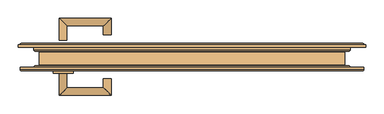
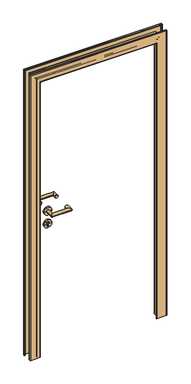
"""IFC4 building model written with IfcOpenShell, lengths in millimetres: door geometry, Peneder_HIGHLINEflat zero_1-flügelig_V2019 : Zargentyp - 07 - Stumpf FP V."""

from ifc_helpers import new_model, si_unit, frame, origin, place, context, project, spatial, polyline, circle_curve, ellipse_curve, source, transform, mapped, element, save
from ifc_brep_helpers import plane_surface, cylinder_surface, revolved_surface, advanced_brep


def door_acefcb3a(model_context):
    return source(origin(), model_context, "Body", "AdvancedBrep", [
        advanced_brep(
        [(-434.2, 75.0, 0.0), (-431.0, 71.8, 0.0), (-431.0, 57.2, 0.0), (-429.8, 56.0, 0.0), (-418.2, 56.0, 0.0), (-415.0, 52.8, 0.0), (-415.0, 12.1, 0.0), (-417.0, 12.1, 0.0), (-417.0, 52.8, 0.0), (-418.2, 54.0, 0.0), (-429.8, 54.0, 0.0), (-433.0, 57.2, 0.0), (-433.0, 71.8, 0.0), (-434.2, 73.0, 0.0), (-467.8, 73.0, 0.0), (-469.0, 71.8, 0.0), (-469.0, 65.0, 0.0), (-471.0, 65.0, 0.0), (-471.0, 71.8, 0.0), (-467.8, 75.0, 0.0), (-434.2, 75.0, 2034.2), (-431.0, 71.8, 2031.0), (-431.0, 57.2, 2031.0), (-429.8, 56.0, 2029.8), (429.8, 56.0, 2029.8), (429.8, 56.0, 0.0), (418.2, 56.0, 0.0), (418.2, 56.0, 2018.2), (-418.2, 56.0, 2018.2), (-415.0, 52.8, 2015.0), (-415.0, 12.1, 2015.0), (415.0, 12.1, 2015.0), (415.0, 12.1, 0.0), (417.0, 12.1, 0.0), (417.0, 12.1, 2017.0), (-417.0, 12.1, 2017.0), (-417.0, 52.8, 2017.0), (-418.2, 54.0, 2018.2), (418.2, 54.0, 2018.2), (418.2, 54.0, 0.0), (429.8, 54.0, 0.0), (429.8, 54.0, 2029.8), (-429.8, 54.0, 2029.8), (-433.0, 57.2, 2033.0), (-433.0, 71.8, 2033.0), (-434.2, 73.0, 2034.2), (434.2, 73.0, 2034.2), (434.2, 73.0, 0.0), (467.8, 73.0, 0.0), (467.8, 73.0, 2067.8), (-467.8, 73.0, 2067.8), (-469.0, 71.8, 2069.0), (-469.0, 65.0, 2069.0), (469.0, 65.0, 2069.0), (469.0, 65.0, 0.0), (471.0, 65.0, 0.0), (471.0, 65.0, 2071.0), (-471.0, 65.0, 2071.0), (-471.0, 71.8, 2071.0), (-467.8, 75.0, 2067.8), (467.8, 75.0, 2067.8), (467.8, 75.0, 0.0), (434.2, 75.0, 0.0), (434.2, 75.0, 2034.2), (415.0, 52.8, 2015.0), (415.0, 52.8, 0.0), (471.0, 71.8, 0.0), (469.0, 71.8, 0.0), (433.0, 71.8, 0.0), (433.0, 57.2, 0.0), (417.0, 52.8, 0.0), (431.0, 57.2, 0.0), (431.0, 71.8, 0.0), (417.0, 52.8, 2017.0), (433.0, 57.2, 2033.0), (469.0, 71.8, 2069.0), (471.0, 71.8, 2071.0), (433.0, 71.8, 2033.0), (431.0, 57.2, 2031.0), (431.0, 71.8, 2031.0)],
        [
            (0, 1, circle_curve(frame((-434.2, 71.8, 0.0), z_axis=(0.0, 0.0, -1.0), x_axis=(-1.0, 0.0, 0.0)), 3.2)),
            (1, 2),
            (2, 3, circle_curve(frame((-429.8, 57.2, 0.0), z_axis=(0.0, 0.0, 1.0), x_axis=(-1.0, 0.0, 0.0)), 1.2)),
            (3, 4),
            (4, 5, circle_curve(frame((-418.2, 52.8, 0.0), z_axis=(0.0, 0.0, -1.0), x_axis=(-1.0, 0.0, 0.0)), 3.2)),
            (5, 6),
            (6, 7),
            (7, 8),
            (8, 9, circle_curve(frame((-418.2, 52.8, 0.0), z_axis=(0.0, 0.0, 1.0), x_axis=(-1.0, 0.0, 0.0)), 1.2)),
            (9, 10),
            (10, 11, circle_curve(frame((-429.8, 57.2, 0.0), z_axis=(0.0, 0.0, -1.0), x_axis=(-1.0, 0.0, 0.0)), 3.2)),
            (11, 12),
            (12, 13, circle_curve(frame((-434.2, 71.8, 0.0), z_axis=(0.0, 0.0, 1.0), x_axis=(-1.0, 0.0, 0.0)), 1.2)),
            (13, 14),
            (14, 15, circle_curve(frame((-467.8, 71.8, 0.0), z_axis=(0.0, 0.0, 1.0), x_axis=(-1.0, 0.0, 0.0)), 1.2)),
            (15, 16),
            (16, 17),
            (17, 18),
            (18, 19, circle_curve(frame((-467.8, 71.8, 0.0), z_axis=(0.0, 0.0, -1.0), x_axis=(-1.0, 0.0, 0.0)), 3.2)),
            (19, 0),
            (0, 20),
            (20, 21, ellipse_curve(frame((-434.2, 71.8, 2034.2), z_axis=(-0.7071067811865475, 0.0, -0.7071067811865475), x_axis=(0.7071067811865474, 0.0, -0.7071067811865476)), 4.5254834, 3.2)),
            (21, 1),
            (21, 22),
            (22, 2),
            (22, 23, ellipse_curve(frame((-429.8, 57.2, 2029.8), z_axis=(0.7071067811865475, 0.0, 0.7071067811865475), x_axis=(-0.7071067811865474, 0.0, 0.7071067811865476)), 1.6970563, 1.2)),
            (23, 3),
            (23, 24),
            (24, 25),
            (25, 26),
            (26, 27),
            (27, 28),
            (28, 4),
            (28, 29, ellipse_curve(frame((-418.2, 52.8, 2018.2), z_axis=(-0.7071067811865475, 0.0, -0.7071067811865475), x_axis=(0.7071067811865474, 0.0, -0.7071067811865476)), 4.5254834, 3.2)),
            (29, 5),
            (29, 30),
            (30, 6),
            (30, 31),
            (31, 32),
            (32, 33),
            (33, 34),
            (34, 35),
            (35, 7),
            (35, 36),
            (36, 8),
            (36, 37, ellipse_curve(frame((-418.2, 52.8, 2018.2), z_axis=(0.7071067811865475, 0.0, 0.7071067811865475), x_axis=(-0.7071067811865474, 0.0, 0.7071067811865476)), 1.6970563, 1.2)),
            (37, 9),
            (37, 38),
            (38, 39),
            (39, 40),
            (40, 41),
            (41, 42),
            (42, 10),
            (42, 43, ellipse_curve(frame((-429.8, 57.2, 2029.8), z_axis=(-0.7071067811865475, 0.0, -0.7071067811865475), x_axis=(0.7071067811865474, 0.0, -0.7071067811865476)), 4.5254834, 3.2)),
            (43, 11),
            (43, 44),
            (44, 12),
            (44, 45, ellipse_curve(frame((-434.2, 71.8, 2034.2), z_axis=(0.7071067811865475, 0.0, 0.7071067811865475), x_axis=(-0.7071067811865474, 0.0, 0.7071067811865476)), 1.6970563, 1.2)),
            (45, 13),
            (45, 46),
            (46, 47),
            (47, 48),
            (48, 49),
            (49, 50),
            (50, 14),
            (50, 51, ellipse_curve(frame((-467.8, 71.8, 2067.8), z_axis=(0.7071067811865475, 0.0, 0.7071067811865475), x_axis=(-0.7071067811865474, 0.0, 0.7071067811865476)), 1.6970563, 1.2)),
            (51, 15),
            (51, 52),
            (52, 16),
            (52, 53),
            (53, 54),
            (54, 55),
            (55, 56),
            (56, 57),
            (57, 17),
            (57, 58),
            (58, 18),
            (58, 59, ellipse_curve(frame((-467.8, 71.8, 2067.8), z_axis=(-0.7071067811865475, 0.0, -0.7071067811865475), x_axis=(0.7071067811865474, 0.0, -0.7071067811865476)), 4.5254834, 3.2)),
            (59, 19),
            (59, 60),
            (60, 61),
            (61, 62),
            (62, 63),
            (63, 20),
            (31, 64),
            (64, 65),
            (65, 32),
            (61, 66, circle_curve(frame((467.8, 71.8, 0.0), z_axis=(0.0, 0.0, -1.0), x_axis=(1.0, 0.0, 0.0)), 3.2)),
            (66, 55),
            (54, 67),
            (67, 48, circle_curve(frame((467.8, 71.8, 0.0), z_axis=(0.0, 0.0, 1.0), x_axis=(1.0, 0.0, 0.0)), 1.2)),
            (47, 68, circle_curve(frame((434.2, 71.8, 0.0), z_axis=(0.0, 0.0, 1.0), x_axis=(1.0, 0.0, 0.0)), 1.2)),
            (68, 69),
            (69, 40, circle_curve(frame((429.8, 57.2, 0.0), z_axis=(0.0, 0.0, -1.0), x_axis=(1.0, 0.0, 0.0)), 3.2)),
            (39, 70, circle_curve(frame((418.2, 52.8, 0.0), z_axis=(0.0, 0.0, 1.0), x_axis=(1.0, 0.0, 0.0)), 1.2)),
            (70, 33),
            (65, 26, circle_curve(frame((418.2, 52.8, 0.0), z_axis=(0.0, 0.0, -1.0), x_axis=(1.0, 0.0, 0.0)), 3.2)),
            (25, 71, circle_curve(frame((429.8, 57.2, 0.0), z_axis=(0.0, 0.0, 1.0), x_axis=(1.0, 0.0, 0.0)), 1.2)),
            (71, 72),
            (72, 62, circle_curve(frame((434.2, 71.8, 0.0), z_axis=(0.0, 0.0, -1.0), x_axis=(1.0, 0.0, 0.0)), 3.2)),
            (73, 34),
            (70, 73),
            (38, 73, ellipse_curve(frame((418.2, 52.8, 2018.2), z_axis=(-0.7071067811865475, 0.0, 0.7071067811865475), x_axis=(-0.7071067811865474, 0.0, -0.7071067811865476)), 1.6970563, 1.2)),
            (74, 41, ellipse_curve(frame((429.8, 57.2, 2029.8), z_axis=(0.7071067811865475, 0.0, -0.7071067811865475), x_axis=(0.7071067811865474, 0.0, 0.7071067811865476)), 4.5254834, 3.2)),
            (69, 74),
            (53, 75),
            (75, 67),
            (76, 56),
            (66, 76),
            (46, 77, ellipse_curve(frame((434.2, 71.8, 2034.2), z_axis=(-0.7071067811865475, 0.0, 0.7071067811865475), x_axis=(-0.7071067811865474, 0.0, -0.7071067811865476)), 1.6970563, 1.2)),
            (77, 68),
            (75, 49, ellipse_curve(frame((467.8, 71.8, 2067.8), z_axis=(-0.7071067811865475, 0.0, 0.7071067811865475), x_axis=(-0.7071067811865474, 0.0, -0.7071067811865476)), 1.6970563, 1.2)),
            (24, 78, ellipse_curve(frame((429.8, 57.2, 2029.8), z_axis=(-0.7071067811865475, 0.0, 0.7071067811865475), x_axis=(-0.7071067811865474, 0.0, -0.7071067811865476)), 1.6970563, 1.2)),
            (78, 71),
            (64, 27, ellipse_curve(frame((418.2, 52.8, 2018.2), z_axis=(0.7071067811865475, 0.0, -0.7071067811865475), x_axis=(0.7071067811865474, 0.0, 0.7071067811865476)), 4.5254834, 3.2)),
            (60, 76, ellipse_curve(frame((467.8, 71.8, 2067.8), z_axis=(0.7071067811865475, 0.0, -0.7071067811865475), x_axis=(0.7071067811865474, 0.0, 0.7071067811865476)), 4.5254834, 3.2)),
            (79, 63, ellipse_curve(frame((434.2, 71.8, 2034.2), z_axis=(0.7071067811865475, 0.0, -0.7071067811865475), x_axis=(0.7071067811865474, 0.0, 0.7071067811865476)), 4.5254834, 3.2)),
            (72, 79),
            (77, 74),
            (78, 79),
            (73, 36),
            (44, 77),
            (64, 29),
            (51, 75),
            (76, 58),
            (22, 78),
            (21, 79),
            (43, 74),
        ],
        [
            plane_surface(frame((-476.0, 75.0, 0.0), z_axis=(0.0, 0.0, -1.0), x_axis=(0.0, 1.0, 0.0))),
            cylinder_surface(frame((-434.2, 71.8, 0.0), z_axis=(0.0, 0.0, -1.0), x_axis=(-1.0, 0.0, 0.0)), 3.2),
            plane_surface(frame((-431.0, 71.8, 0.0), z_axis=(1.0, 0.0, 0.0), x_axis=(0.0, 0.0, 1.0))),
            revolved_surface(polyline([(-431.0, 57.2, 2031.0000000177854), (-431.0, 57.2, 0.0)]), (-429.8, 57.2, 0.0), (0.0, 0.0, 1.0)),
            plane_surface(frame((-429.8, 56.0, 0.0), z_axis=(0.0, 1.0, 0.0), x_axis=(0.0, 0.0, 1.0))),
            cylinder_surface(frame((-418.2, 52.8, 0.0), z_axis=(0.0, 0.0, -1.0), x_axis=(-1.0, 0.0, 0.0)), 3.2),
            plane_surface(frame((-415.0, 52.8, 0.0), z_axis=(1.0, 0.0, 0.0), x_axis=(0.0, 0.0, 1.0))),
            plane_surface(frame((-415.0, 12.1, 0.0), z_axis=(0.0, -1.0, 0.0), x_axis=(0.0, 0.0, 1.0))),
            plane_surface(frame((-417.0, 12.1, 0.0), z_axis=(-1.0, 0.0, 0.0), x_axis=(0.0, 0.0, 1.0))),
            revolved_surface(polyline([(-419.4, 52.8, 2019.4000000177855), (-419.4, 52.8, 0.0)]), (-418.2, 52.8, 0.0), (0.0, 0.0, 1.0)),
            plane_surface(frame((-418.2, 54.0, 0.0), z_axis=(0.0, -1.0, 0.0), x_axis=(0.0, 0.0, 1.0))),
            cylinder_surface(frame((-429.8, 57.2, 0.0), z_axis=(0.0, 0.0, -1.0), x_axis=(-1.0, 0.0, 0.0)), 3.2),
            plane_surface(frame((-433.0, 57.2, 0.0), z_axis=(-1.0, 0.0, 0.0), x_axis=(0.0, 0.0, 1.0))),
            revolved_surface(polyline([(-435.4, 71.8, 2035.4000000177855), (-435.4, 71.8, 0.0)]), (-434.2, 71.8, 0.0), (0.0, 0.0, 1.0)),
            plane_surface(frame((-434.2, 73.0, 0.0), z_axis=(0.0, -1.0, 0.0), x_axis=(0.0, 0.0, 1.0))),
            revolved_surface(polyline([(-469.0, 71.8, 2069.0000000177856), (-469.0, 71.8, 0.0)]), (-467.8, 71.8, 0.0), (0.0, 0.0, 1.0)),
            plane_surface(frame((-469.0, 71.8, 0.0), z_axis=(1.0, 0.0, 0.0), x_axis=(0.0, 0.0, 1.0))),
            plane_surface(frame((-469.0, 65.0, 0.0), z_axis=(0.0, -1.0, 0.0), x_axis=(0.0, 0.0, 1.0))),
            plane_surface(frame((-471.0, 65.0, 0.0), z_axis=(-1.0, 0.0, 0.0), x_axis=(0.0, 0.0, 1.0))),
            cylinder_surface(frame((-467.8, 71.8, 0.0), z_axis=(0.0, 0.0, -1.0), x_axis=(-1.0, 0.0, 0.0)), 3.2),
            plane_surface(frame((-467.8, 75.0, 0.0), z_axis=(0.0, 1.0, 0.0), x_axis=(0.0, 0.0, 1.0))),
            plane_surface(frame((415.0, 52.8, 2015.0), z_axis=(-1.0, 0.0, 0.0), x_axis=(0.0, 0.0, -1.0))),
            plane_surface(frame((476.0, 75.0, 0.0), z_axis=(0.0, 0.0, -1.0), x_axis=(0.0, 1.0, 0.0))),
            plane_surface(frame((417.0, 12.1, 2017.0), z_axis=(1.0, 0.0, 0.0), x_axis=(0.0, 0.0, -1.0))),
            revolved_surface(polyline([(419.4, 52.8, 0.0), (419.4, 52.8, 2019.4000000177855)]), (418.2, 52.8, 2076.0), (0.0, 0.0, -1.0)),
            cylinder_surface(frame((429.8, 57.2, 2076.0), z_axis=(0.0, 0.0, 1.0), x_axis=(1.0, 0.0, 0.0)), 3.2),
            plane_surface(frame((469.0, 71.8, 2069.0), z_axis=(-1.0, 0.0, 0.0), x_axis=(0.0, 0.0, -1.0))),
            plane_surface(frame((471.0, 65.0, 2071.0), z_axis=(1.0, 0.0, 0.0), x_axis=(0.0, 0.0, -1.0))),
            revolved_surface(polyline([(435.4, 71.8, 0.0), (435.4, 71.8, 2035.4000000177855)]), (434.2, 71.8, 2076.0), (0.0, 0.0, -1.0)),
            revolved_surface(polyline([(469.0, 71.8, 0.0), (469.0, 71.8, 2069.0000000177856)]), (467.8, 71.8, 2076.0), (0.0, 0.0, -1.0)),
            revolved_surface(polyline([(431.0, 57.2, 0.0), (431.0, 57.2, 2031.0000000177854)]), (429.8, 57.2, 2076.0), (0.0, 0.0, -1.0)),
            cylinder_surface(frame((418.2, 52.8, 2076.0), z_axis=(0.0, 0.0, 1.0), x_axis=(1.0, 0.0, 0.0)), 3.2),
            cylinder_surface(frame((467.8, 71.8, 2076.0), z_axis=(0.0, 0.0, 1.0), x_axis=(1.0, 0.0, 0.0)), 3.2),
            cylinder_surface(frame((434.2, 71.8, 2076.0), z_axis=(0.0, 0.0, 1.0), x_axis=(1.0, 0.0, 0.0)), 3.2),
            plane_surface(frame((433.0, 57.2, 2033.0), z_axis=(1.0, 0.0, 0.0), x_axis=(0.0, 0.0, -1.0))),
            plane_surface(frame((431.0, 71.8, 2031.0), z_axis=(-1.0, 0.0, 0.0), x_axis=(0.0, 0.0, -1.0))),
            plane_surface(frame((-417.0, 12.1, 2017.0), z_axis=(0.0, 0.0, 1.0), x_axis=(1.0, 0.0, 0.0))),
            revolved_surface(polyline([(419.4000000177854, 52.8, 2019.4), (-419.4000000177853, 52.8, 2019.4)]), (-476.0, 52.8, 2018.2), (1.0, 0.0, 0.0)),
            revolved_surface(polyline([(435.4000000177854, 71.8, 2035.4), (-435.4000000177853, 71.8, 2035.4)]), (-476.0, 71.8, 2034.2), (1.0, 0.0, 0.0)),
            cylinder_surface(frame((-476.0, 52.8, 2018.2), z_axis=(-1.0, 0.0, 0.0), x_axis=(0.0, 0.0, 1.0)), 3.2),
            plane_surface(frame((-469.0, 71.8, 2069.0), z_axis=(0.0, 0.0, -1.0), x_axis=(1.0, 0.0, 0.0))),
            revolved_surface(polyline([(469.0000000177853, 71.8, 2069.0), (-469.00000001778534, 71.8, 2069.0)]), (-476.0, 71.8, 2067.8), (1.0, 0.0, 0.0)),
            plane_surface(frame((-471.0, 65.0, 2071.0), z_axis=(0.0, 0.0, 1.0), x_axis=(1.0, 0.0, 0.0))),
            cylinder_surface(frame((-476.0, 71.8, 2067.8), z_axis=(-1.0, 0.0, 0.0), x_axis=(0.0, 0.0, 1.0)), 3.2),
            revolved_surface(polyline([(431.0000000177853, 57.2, 2031.0), (-431.00000001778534, 57.2, 2031.0)]), (-476.0, 57.2, 2029.8), (1.0, 0.0, 0.0)),
            plane_surface(frame((-431.0, 71.8, 2031.0), z_axis=(0.0, 0.0, -1.0), x_axis=(1.0, 0.0, 0.0))),
            cylinder_surface(frame((-476.0, 71.8, 2034.2), z_axis=(-1.0, 0.0, 0.0), x_axis=(0.0, 0.0, 1.0)), 3.2),
            plane_surface(frame((-415.0, 52.8, 2015.0), z_axis=(0.0, 0.0, -1.0), x_axis=(1.0, 0.0, 0.0))),
            plane_surface(frame((-433.0, 57.2, 2033.0), z_axis=(0.0, 0.0, 1.0), x_axis=(1.0, 0.0, 0.0))),
            cylinder_surface(frame((-476.0, 57.2, 2029.8), z_axis=(-1.0, 0.0, 0.0), x_axis=(0.0, 0.0, 1.0)), 3.2),
        ],
        [
            (0, [[1, 2, 3, 4, 5, 6, 7, 8, 9, 10, 11, 12, 13, 14, 15, 16, 17, 18, 19, 20]]),
            (1, [[-1, 21, 22, 23]]),
            (2, [[-2, -23, 24, 25]]),
            (3, [[-3, -25, 26, 27]]),
            (4, [[-4, -27, 28, 29, 30, 31, 32, 33]]),
            (5, [[-5, -33, 34, 35]]),
            (6, [[-6, -35, 36, 37]]),
            (7, [[-7, -37, 38, 39, 40, 41, 42, 43]]),
            (8, [[-8, -43, 44, 45]]),
            (9, [[-9, -45, 46, 47]]),
            (10, [[-10, -47, 48, 49, 50, 51, 52, 53]]),
            (11, [[-11, -53, 54, 55]]),
            (12, [[-12, -55, 56, 57]]),
            (13, [[-13, -57, 58, 59]]),
            (14, [[-14, -59, 60, 61, 62, 63, 64, 65]]),
            (15, [[-15, -65, 66, 67]]),
            (16, [[-16, -67, 68, 69]]),
            (17, [[-17, -69, 70, 71, 72, 73, 74, 75]]),
            (18, [[-18, -75, 76, 77]]),
            (19, [[-19, -77, 78, 79]]),
            (20, [[-20, -79, 80, 81, 82, 83, 84, -21]]),
            (21, [[85, 86, 87, -39]]),
            (22, [[-82, 88, 89, -72, 90, 91, -62, 92, 93, 94, -50, 95, 96, -40, -87, 97, -30, 98, 99, 100]]),
            (23, [[101, -41, -96, 102]]),
            (24, [[103, -102, -95, -49]]),
            (25, [[104, -51, -94, 105]]),
            (26, [[106, 107, -90, -71]]),
            (27, [[108, -73, -89, 109]]),
            (28, [[110, 111, -92, -61]]),
            (29, [[112, -63, -91, -107]]),
            (30, [[113, 114, -98, -29]]),
            (31, [[115, -31, -97, -86]]),
            (32, [[116, -109, -88, -81]]),
            (33, [[117, -83, -100, 118]]),
            (34, [[119, -105, -93, -111]]),
            (35, [[120, -118, -99, -114]]),
            (36, [[-44, -42, -101, 121]]),
            (37, [[-46, -121, -103, -48]]),
            (38, [[-58, 122, -110, -60]]),
            (39, [[-34, -32, -115, 123]]),
            (40, [[-68, 124, -106, -70]]),
            (41, [[-66, -64, -112, -124]]),
            (42, [[-76, -74, -108, 125]]),
            (43, [[-78, -125, -116, -80]]),
            (44, [[-26, 126, -113, -28]]),
            (45, [[-24, 127, -120, -126]]),
            (46, [[-22, -84, -117, -127]]),
            (47, [[-36, -123, -85, -38]]),
            (48, [[-56, 128, -119, -122]]),
            (49, [[-54, -52, -104, -128]]),
        ],
    ),
        advanced_brep(
        [(-402.05, 0.1254834, 0.0), (-467.8, 0.1254834, 0.0), (-471.0, 3.3254834, 0.0), (-471.0, 10.1254834, 0.0), (-469.0, 10.1254834, 0.0), (-469.0, 3.3254834, 0.0), (-467.8, 2.1254834, 0.0), (-402.05, 2.1254834, 0.0), (-429.1, 2.2254834, 0.0), (-432.3, 5.4254834, 0.0), (-432.3, 11.0254834, 0.0), (-429.1, 14.2254834, 0.0), (-420.25, 14.2254834, 0.0), (-419.05, 15.4254834, 0.0), (-419.05, 51.2254834, 0.0), (-417.05, 51.2254834, 0.0), (-417.05, 15.4254834, 0.0), (-420.25, 12.2254834, 0.0), (-429.1, 12.2254834, 0.0), (-430.3, 11.0254834, 0.0), (-430.3, 5.4254834, 0.0), (-429.1, 4.2254834, 0.0), (-402.05, 4.2254834, 0.0), (-402.05, 0.1254834, 2002.05), (402.05, 0.1254834, 2002.05), (402.05, 0.1254834, 0.0), (467.8, 0.1254834, 0.0), (467.8, 0.1254834, 2067.8), (-467.8, 0.1254834, 2067.8), (-471.0, 3.3254834, 2071.0), (-471.0, 10.1254834, 2071.0), (471.0, 10.1254834, 2071.0), (471.0, 10.1254834, 0.0), (469.0, 10.1254834, 0.0), (469.0, 10.1254834, 2069.0), (-469.0, 10.1254834, 2069.0), (-469.0, 3.3254834, 2069.0), (-467.8, 2.1254834, 2067.8), (467.8, 2.1254834, 2067.8), (467.8, 2.1254834, 0.0), (402.05, 2.1254834, 0.0), (402.05, 2.1254834, 2002.05), (-402.05, 2.1254834, 2002.05), (-429.1, 2.2254834, 2029.1), (-432.3, 5.4254834, 2032.3), (-432.3, 11.0254834, 2032.3), (-429.1, 14.2254834, 2029.1), (429.1, 14.2254834, 2029.1), (429.1, 14.2254834, 0.0), (420.25, 14.2254834, 0.0), (420.25, 14.2254834, 2020.25), (-420.25, 14.2254834, 2020.25), (-419.05, 15.4254834, 2019.05), (-419.05, 51.2254834, 2019.05), (419.05, 51.2254834, 2019.05), (419.05, 51.2254834, 0.0), (417.05, 51.2254834, 0.0), (417.05, 51.2254834, 2017.05), (-417.05, 51.2254834, 2017.05), (-417.05, 15.4254834, 2017.05), (-420.25, 12.2254834, 2020.25), (420.25, 12.2254834, 2020.25), (420.25, 12.2254834, 0.0), (429.1, 12.2254834, 0.0), (429.1, 12.2254834, 2029.1), (-429.1, 12.2254834, 2029.1), (-430.3, 11.0254834, 2030.3), (-430.3, 5.4254834, 2030.3), (-429.1, 4.2254834, 2029.1), (429.1, 4.2254834, 2029.1), (429.1, 4.2254834, 0.0), (402.05, 4.2254834, 0.0), (402.05, 4.2254834, 2002.05), (-402.05, 4.2254834, 2002.05), (471.0, 3.3254834, 2071.0), (471.0, 3.3254834, 0.0), (430.3, 5.4254834, 0.0), (430.3, 11.0254834, 0.0), (417.05, 15.4254834, 0.0), (419.05, 15.4254834, 0.0), (432.3, 11.0254834, 0.0), (432.3, 5.4254834, 0.0), (429.1, 2.2254834, 0.0), (469.0, 3.3254834, 0.0), (469.0, 3.3254834, 2069.0), (429.1, 2.2254834, 2029.1), (430.3, 5.4254834, 2030.3), (417.05, 15.4254834, 2017.05), (430.3, 11.0254834, 2030.3), (432.3, 11.0254834, 2032.3), (419.05, 15.4254834, 2019.05), (432.3, 5.4254834, 2032.3)],
        [
            (0, 1),
            (1, 2, circle_curve(frame((-467.8, 3.3254834, 0.0), z_axis=(0.0, 0.0, -1.0), x_axis=(-1.0, 0.0, 0.0)), 3.2)),
            (2, 3),
            (3, 4),
            (4, 5),
            (5, 6, circle_curve(frame((-467.8, 3.3254834, 0.0), z_axis=(0.0, 0.0, 1.0), x_axis=(-1.0, 0.0, 0.0)), 1.2)),
            (6, 7),
            (7, 8),
            (8, 9, circle_curve(frame((-429.1, 5.4254834, 0.0), z_axis=(0.0, 0.0, -1.0), x_axis=(-1.0, 0.0, 0.0)), 3.2)),
            (9, 10),
            (10, 11, circle_curve(frame((-429.1, 11.0254834, 0.0), z_axis=(0.0, 0.0, -1.0), x_axis=(-1.0, 0.0, 0.0)), 3.2)),
            (11, 12),
            (12, 13, circle_curve(frame((-420.25, 15.4254834, 0.0), z_axis=(0.0, 0.0, 1.0), x_axis=(-1.0, 0.0, 0.0)), 1.2)),
            (13, 14),
            (14, 15),
            (15, 16),
            (16, 17, circle_curve(frame((-420.25, 15.4254834, 0.0), z_axis=(0.0, 0.0, -1.0), x_axis=(-1.0, 0.0, 0.0)), 3.2)),
            (17, 18),
            (18, 19, circle_curve(frame((-429.1, 11.0254834, 0.0), z_axis=(0.0, 0.0, 1.0), x_axis=(-1.0, 0.0, 0.0)), 1.2)),
            (19, 20),
            (20, 21, circle_curve(frame((-429.1, 5.4254834, 0.0), z_axis=(0.0, 0.0, 1.0), x_axis=(-1.0, 0.0, 0.0)), 1.2)),
            (21, 22),
            (22, 0, circle_curve(frame((-402.05, 2.1754834, 0.0), z_axis=(0.0, 0.0, -1.0), x_axis=(-1.0, 0.0, 0.0)), 2.05)),
            (0, 23),
            (23, 24),
            (24, 25),
            (25, 26),
            (26, 27),
            (27, 28),
            (28, 1),
            (28, 29, ellipse_curve(frame((-467.8, 3.3254834, 2067.8), z_axis=(-0.7071067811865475, 0.0, -0.7071067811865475), x_axis=(0.7071067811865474, 0.0, -0.7071067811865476)), 4.5254834, 3.2)),
            (29, 2),
            (29, 30),
            (30, 3),
            (30, 31),
            (31, 32),
            (32, 33),
            (33, 34),
            (34, 35),
            (35, 4),
            (35, 36),
            (36, 5),
            (36, 37, ellipse_curve(frame((-467.8, 3.3254834, 2067.8), z_axis=(0.7071067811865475, 0.0, 0.7071067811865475), x_axis=(-0.7071067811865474, 0.0, 0.7071067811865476)), 1.6970563, 1.2)),
            (37, 6),
            (37, 38),
            (38, 39),
            (39, 40),
            (40, 41),
            (41, 42),
            (42, 7),
            (42, 43),
            (43, 8),
            (43, 44, ellipse_curve(frame((-429.1, 5.4254834, 2029.1), z_axis=(-0.7071067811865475, 0.0, -0.7071067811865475), x_axis=(0.7071067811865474, 0.0, -0.7071067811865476)), 4.5254834, 3.2)),
            (44, 9),
            (44, 45),
            (45, 10),
            (45, 46, ellipse_curve(frame((-429.1, 11.0254834, 2029.1), z_axis=(-0.7071067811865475, 0.0, -0.7071067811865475), x_axis=(0.7071067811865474, 0.0, -0.7071067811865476)), 4.5254834, 3.2)),
            (46, 11),
            (46, 47),
            (47, 48),
            (48, 49),
            (49, 50),
            (50, 51),
            (51, 12),
            (51, 52, ellipse_curve(frame((-420.25, 15.4254834, 2020.25), z_axis=(0.7071067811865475, 0.0, 0.7071067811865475), x_axis=(-0.7071067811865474, 0.0, 0.7071067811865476)), 1.6970563, 1.2)),
            (52, 13),
            (52, 53),
            (53, 14),
            (53, 54),
            (54, 55),
            (55, 56),
            (56, 57),
            (57, 58),
            (58, 15),
            (58, 59),
            (59, 16),
            (59, 60, ellipse_curve(frame((-420.25, 15.4254834, 2020.25), z_axis=(-0.7071067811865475, 0.0, -0.7071067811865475), x_axis=(0.7071067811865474, 0.0, -0.7071067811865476)), 4.5254834, 3.2)),
            (60, 17),
            (60, 61),
            (61, 62),
            (62, 63),
            (63, 64),
            (64, 65),
            (65, 18),
            (65, 66, ellipse_curve(frame((-429.1, 11.0254834, 2029.1), z_axis=(0.7071067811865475, 0.0, 0.7071067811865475), x_axis=(-0.7071067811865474, 0.0, 0.7071067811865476)), 1.6970563, 1.2)),
            (66, 19),
            (66, 67),
            (67, 20),
            (67, 68, ellipse_curve(frame((-429.1, 5.4254834, 2029.1), z_axis=(0.7071067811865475, 0.0, 0.7071067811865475), x_axis=(-0.7071067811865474, 0.0, 0.7071067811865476)), 1.6970563, 1.2)),
            (68, 21),
            (68, 69),
            (69, 70),
            (70, 71),
            (71, 72),
            (72, 73),
            (73, 22),
            (73, 23, ellipse_curve(frame((-402.05, 2.1754834, 2002.05), z_axis=(-0.7071067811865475, 0.0, -0.7071067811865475), x_axis=(0.7071067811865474, 0.0, -0.7071067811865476)), 2.8991378, 2.05)),
            (31, 74),
            (74, 75),
            (75, 32),
            (25, 71, circle_curve(frame((402.05, 2.1754834, 0.0), z_axis=(0.0, 0.0, -1.0), x_axis=(1.0, 0.0, 0.0)), 2.05)),
            (70, 76, circle_curve(frame((429.1, 5.4254834, 0.0), z_axis=(0.0, 0.0, 1.0), x_axis=(1.0, 0.0, 0.0)), 1.2)),
            (76, 77),
            (77, 63, circle_curve(frame((429.1, 11.0254834, 0.0), z_axis=(0.0, 0.0, 1.0), x_axis=(1.0, 0.0, 0.0)), 1.2)),
            (62, 78, circle_curve(frame((420.25, 15.4254834, 0.0), z_axis=(0.0, 0.0, -1.0), x_axis=(1.0, 0.0, 0.0)), 3.2)),
            (78, 56),
            (55, 79),
            (79, 49, circle_curve(frame((420.25, 15.4254834, 0.0), z_axis=(0.0, 0.0, 1.0), x_axis=(1.0, 0.0, 0.0)), 1.2)),
            (48, 80, circle_curve(frame((429.1, 11.0254834, 0.0), z_axis=(0.0, 0.0, -1.0), x_axis=(1.0, 0.0, 0.0)), 3.2)),
            (80, 81),
            (81, 82, circle_curve(frame((429.1, 5.4254834, 0.0), z_axis=(0.0, 0.0, -1.0), x_axis=(1.0, 0.0, 0.0)), 3.2)),
            (82, 40),
            (39, 83, circle_curve(frame((467.8, 3.3254834, 0.0), z_axis=(0.0, 0.0, 1.0), x_axis=(1.0, 0.0, 0.0)), 1.2)),
            (83, 33),
            (75, 26, circle_curve(frame((467.8, 3.3254834, 0.0), z_axis=(0.0, 0.0, -1.0), x_axis=(1.0, 0.0, 0.0)), 3.2)),
            (84, 34),
            (83, 84),
            (38, 84, ellipse_curve(frame((467.8, 3.3254834, 2067.8), z_axis=(-0.7071067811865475, 0.0, 0.7071067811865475), x_axis=(-0.7071067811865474, 0.0, -0.7071067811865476)), 1.6970563, 1.2)),
            (85, 41),
            (82, 85),
            (69, 86, ellipse_curve(frame((429.1, 5.4254834, 2029.1), z_axis=(-0.7071067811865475, 0.0, 0.7071067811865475), x_axis=(-0.7071067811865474, 0.0, -0.7071067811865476)), 1.6970563, 1.2)),
            (86, 76),
            (24, 72, ellipse_curve(frame((402.05, 2.1754834, 2002.05), z_axis=(0.7071067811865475, 0.0, -0.7071067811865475), x_axis=(0.7071067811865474, 0.0, 0.7071067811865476)), 2.8991378, 2.05)),
            (61, 87, ellipse_curve(frame((420.25, 15.4254834, 2020.25), z_axis=(0.7071067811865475, 0.0, -0.7071067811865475), x_axis=(0.7071067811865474, 0.0, 0.7071067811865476)), 4.5254834, 3.2)),
            (87, 78),
            (88, 64, ellipse_curve(frame((429.1, 11.0254834, 2029.1), z_axis=(-0.7071067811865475, 0.0, 0.7071067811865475), x_axis=(-0.7071067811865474, 0.0, -0.7071067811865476)), 1.6970563, 1.2)),
            (77, 88),
            (47, 89, ellipse_curve(frame((429.1, 11.0254834, 2029.1), z_axis=(0.7071067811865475, 0.0, -0.7071067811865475), x_axis=(0.7071067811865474, 0.0, 0.7071067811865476)), 4.5254834, 3.2)),
            (89, 80),
            (90, 50, ellipse_curve(frame((420.25, 15.4254834, 2020.25), z_axis=(-0.7071067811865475, 0.0, 0.7071067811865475), x_axis=(-0.7071067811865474, 0.0, -0.7071067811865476)), 1.6970563, 1.2)),
            (79, 90),
            (54, 90),
            (87, 57),
            (86, 88),
            (89, 91),
            (91, 81),
            (91, 85, ellipse_curve(frame((429.1, 5.4254834, 2029.1), z_axis=(0.7071067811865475, 0.0, -0.7071067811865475), x_axis=(0.7071067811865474, 0.0, 0.7071067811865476)), 4.5254834, 3.2)),
            (74, 27, ellipse_curve(frame((467.8, 3.3254834, 2067.8), z_axis=(0.7071067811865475, 0.0, -0.7071067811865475), x_axis=(0.7071067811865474, 0.0, 0.7071067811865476)), 4.5254834, 3.2)),
            (84, 36),
            (67, 86),
            (88, 66),
            (45, 89),
            (43, 85),
            (91, 44),
            (90, 52),
            (87, 59),
            (74, 29),
        ],
        [
            plane_surface(frame((-476.0, 75.0, 0.0), z_axis=(0.0, 0.0, -1.0), x_axis=(0.0, 1.0, 0.0))),
            plane_surface(frame((-402.05, 0.1254834, 0.0), z_axis=(0.0, -1.0, 0.0), x_axis=(0.0, 0.0, 1.0))),
            cylinder_surface(frame((-467.8, 3.3254834, 0.0), z_axis=(0.0, 0.0, -1.0), x_axis=(-1.0, 0.0, 0.0)), 3.2),
            plane_surface(frame((-471.0, 3.3254834, 0.0), z_axis=(-1.0, 0.0, 0.0), x_axis=(0.0, 0.0, 1.0))),
            plane_surface(frame((-471.0, 10.1254834, 0.0), z_axis=(0.0, 1.0, 0.0), x_axis=(0.0, 0.0, 1.0))),
            plane_surface(frame((-469.0, 10.1254834, 0.0), z_axis=(1.0, 0.0, 0.0), x_axis=(0.0, 0.0, 1.0))),
            revolved_surface(polyline([(-469.0, 3.3254834, 2069.0000000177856), (-469.0, 3.3254834, 0.0)]), (-467.8, 3.3254834, 0.0), (0.0, 0.0, 1.0)),
            plane_surface(frame((-467.8, 2.1254834, 0.0), z_axis=(0.0, 1.0, 0.0), x_axis=(0.0, 0.0, 1.0))),
            plane_surface(frame((-402.05, 2.1254834, 0.0), z_axis=(-0.0036968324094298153, -0.9999931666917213, 0.0), x_axis=(0.0, 0.0, 1.0))),
            cylinder_surface(frame((-429.1, 5.4254834, 0.0), z_axis=(0.0, 0.0, -1.0), x_axis=(-1.0, 0.0, 0.0)), 3.2),
            plane_surface(frame((-432.3, 5.4254834, 0.0), z_axis=(-1.0, 0.0, 0.0), x_axis=(0.0, 0.0, 1.0))),
            cylinder_surface(frame((-429.1, 11.0254834, 0.0), z_axis=(0.0, 0.0, -1.0), x_axis=(-1.0, 0.0, 0.0)), 3.2),
            plane_surface(frame((-429.1, 14.2254834, 0.0), z_axis=(0.0, 1.0, 0.0), x_axis=(0.0, 0.0, 1.0))),
            revolved_surface(polyline([(-421.45, 15.4254834, 2021.4500000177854), (-421.45, 15.4254834, 0.0)]), (-420.25, 15.4254834, 0.0), (0.0, 0.0, 1.0)),
            plane_surface(frame((-419.05, 15.4254834, 0.0), z_axis=(-1.0, 0.0, 0.0), x_axis=(0.0, 0.0, 1.0))),
            plane_surface(frame((-419.05, 51.2254834, 0.0), z_axis=(0.0, 1.0, 0.0), x_axis=(0.0, 0.0, 1.0))),
            plane_surface(frame((-417.05, 51.2254834, 0.0), z_axis=(1.0, 0.0, 0.0), x_axis=(0.0, 0.0, 1.0))),
            cylinder_surface(frame((-420.25, 15.4254834, 0.0), z_axis=(0.0, 0.0, -1.0), x_axis=(-1.0, 0.0, 0.0)), 3.2),
            plane_surface(frame((-420.25, 12.2254834, 0.0), z_axis=(0.0, -1.0, 0.0), x_axis=(0.0, 0.0, 1.0))),
            revolved_surface(polyline([(-430.3, 11.0254834, 2030.3000000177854), (-430.3, 11.0254834, 0.0)]), (-429.1, 11.0254834, 0.0), (0.0, 0.0, 1.0)),
            plane_surface(frame((-430.3, 11.0254834, 0.0), z_axis=(1.0, 0.0, 0.0), x_axis=(0.0, 0.0, 1.0))),
            revolved_surface(polyline([(-430.3, 5.4254834, 2030.3000000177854), (-430.3, 5.4254834, 0.0)]), (-429.1, 5.4254834, 0.0), (0.0, 0.0, 1.0)),
            plane_surface(frame((-429.1, 4.2254834, 0.0), z_axis=(0.0, 1.0, 0.0), x_axis=(0.0, 0.0, 1.0))),
            cylinder_surface(frame((-402.05, 2.1754834, 0.0), z_axis=(0.0, 0.0, -1.0), x_axis=(-1.0, 0.0, 0.0)), 2.05),
            plane_surface(frame((471.0, 3.3254834, 2071.0), z_axis=(1.0, 0.0, 0.0), x_axis=(0.0, 0.0, -1.0))),
            plane_surface(frame((476.0, 75.0, 0.0), z_axis=(0.0, 0.0, -1.0), x_axis=(0.0, 1.0, 0.0))),
            plane_surface(frame((469.0, 10.1254834, 2069.0), z_axis=(-1.0, 0.0, 0.0), x_axis=(0.0, 0.0, -1.0))),
            revolved_surface(polyline([(469.0, 3.3254834, 0.0), (469.0, 3.3254834, 2069.0000000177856)]), (467.8, 3.3254834, 2076.0), (0.0, 0.0, -1.0)),
            plane_surface(frame((402.05, 2.1254834, 2002.05), z_axis=(0.003696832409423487, -0.9999931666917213, 0.0), x_axis=(0.0, 0.0, -1.0))),
            revolved_surface(polyline([(430.3, 5.4254834, 0.0), (430.3, 5.4254834, 2030.3000000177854)]), (429.1, 5.4254834, 2076.0), (0.0, 0.0, -1.0)),
            cylinder_surface(frame((402.05, 2.1754834, 2076.0), z_axis=(0.0, 0.0, 1.0), x_axis=(1.0, 0.0, 0.0)), 2.05),
            cylinder_surface(frame((420.25, 15.4254834, 2076.0), z_axis=(0.0, 0.0, 1.0), x_axis=(1.0, 0.0, 0.0)), 3.2),
            revolved_surface(polyline([(430.3, 11.0254834, 0.0), (430.3, 11.0254834, 2030.3000000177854)]), (429.1, 11.0254834, 2076.0), (0.0, 0.0, -1.0)),
            cylinder_surface(frame((429.1, 11.0254834, 2076.0), z_axis=(0.0, 0.0, 1.0), x_axis=(1.0, 0.0, 0.0)), 3.2),
            revolved_surface(polyline([(421.45, 15.4254834, 0.0), (421.45, 15.4254834, 2021.4500000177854)]), (420.25, 15.4254834, 2076.0), (0.0, 0.0, -1.0)),
            plane_surface(frame((419.05, 15.4254834, 2019.05), z_axis=(1.0, 0.0, 0.0), x_axis=(0.0, 0.0, -1.0))),
            plane_surface(frame((417.05, 51.2254834, 2017.05), z_axis=(-1.0, 0.0, 0.0), x_axis=(0.0, 0.0, -1.0))),
            plane_surface(frame((430.3, 11.0254834, 2030.3), z_axis=(-1.0, 0.0, 0.0), x_axis=(0.0, 0.0, -1.0))),
            plane_surface(frame((432.3, 5.4254834, 2032.3), z_axis=(1.0, 0.0, 0.0), x_axis=(0.0, 0.0, -1.0))),
            cylinder_surface(frame((429.1, 5.4254834, 2076.0), z_axis=(0.0, 0.0, 1.0), x_axis=(1.0, 0.0, 0.0)), 3.2),
            cylinder_surface(frame((467.8, 3.3254834, 2076.0), z_axis=(0.0, 0.0, 1.0), x_axis=(1.0, 0.0, 0.0)), 3.2),
            plane_surface(frame((-469.0, 10.1254834, 2069.0), z_axis=(0.0, 0.0, -1.0), x_axis=(1.0, 0.0, 0.0))),
            cylinder_surface(frame((-476.0, 2.1754834, 2002.05), z_axis=(-1.0, 0.0, 0.0), x_axis=(0.0, 0.0, 1.0)), 2.05),
            revolved_surface(polyline([(430.30000001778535, 5.4254834, 2030.3), (-430.30000001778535, 5.4254834, 2030.3)]), (-476.0, 5.4254834, 2029.1), (1.0, 0.0, 0.0)),
            revolved_surface(polyline([(430.30000001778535, 11.0254834, 2030.3), (-430.30000001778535, 11.0254834, 2030.3)]), (-476.0, 11.0254834, 2029.1), (1.0, 0.0, 0.0)),
            plane_surface(frame((-430.3, 11.0254834, 2030.3), z_axis=(0.0, 0.0, -1.0), x_axis=(1.0, 0.0, 0.0))),
            cylinder_surface(frame((-476.0, 11.0254834, 2029.1), z_axis=(-1.0, 0.0, 0.0), x_axis=(0.0, 0.0, 1.0)), 3.2),
            cylinder_surface(frame((-476.0, 5.4254834, 2029.1), z_axis=(-1.0, 0.0, 0.0), x_axis=(0.0, 0.0, 1.0)), 3.2),
            plane_surface(frame((-402.05, 2.1254834, 2002.05), z_axis=(0.0, -0.9999931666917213, 0.003696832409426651), x_axis=(1.0, 0.0, 0.0))),
            plane_surface(frame((-432.3, 5.4254834, 2032.3), z_axis=(0.0, 0.0, 1.0), x_axis=(1.0, 0.0, 0.0))),
            revolved_surface(polyline([(421.4500000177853, 15.4254834, 2021.45), (-421.4500000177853, 15.4254834, 2021.45)]), (-476.0, 15.4254834, 2020.25), (1.0, 0.0, 0.0)),
            plane_surface(frame((-417.05, 51.2254834, 2017.05), z_axis=(0.0, 0.0, -1.0), x_axis=(1.0, 0.0, 0.0))),
            cylinder_surface(frame((-476.0, 15.4254834, 2020.25), z_axis=(-1.0, 0.0, 0.0), x_axis=(0.0, 0.0, 1.0)), 3.2),
            plane_surface(frame((-419.05, 15.4254834, 2019.05), z_axis=(0.0, 0.0, 1.0), x_axis=(1.0, 0.0, 0.0))),
            revolved_surface(polyline([(469.0000000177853, 3.3254834, 2069.0), (-469.00000001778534, 3.3254834, 2069.0)]), (-476.0, 3.3254834, 2067.8), (1.0, 0.0, 0.0)),
            cylinder_surface(frame((-476.0, 3.3254834, 2067.8), z_axis=(-1.0, 0.0, 0.0), x_axis=(0.0, 0.0, 1.0)), 3.2),
            plane_surface(frame((-471.0, 3.3254834, 2071.0), z_axis=(0.0, 0.0, 1.0), x_axis=(1.0, 0.0, 0.0))),
        ],
        [
            (0, [[1, 2, 3, 4, 5, 6, 7, 8, 9, 10, 11, 12, 13, 14, 15, 16, 17, 18, 19, 20, 21, 22, 23]]),
            (1, [[-1, 24, 25, 26, 27, 28, 29, 30]]),
            (2, [[-2, -30, 31, 32]]),
            (3, [[-3, -32, 33, 34]]),
            (4, [[-4, -34, 35, 36, 37, 38, 39, 40]]),
            (5, [[-5, -40, 41, 42]]),
            (6, [[-6, -42, 43, 44]]),
            (7, [[-7, -44, 45, 46, 47, 48, 49, 50]]),
            (8, [[-8, -50, 51, 52]]),
            (9, [[-9, -52, 53, 54]]),
            (10, [[-10, -54, 55, 56]]),
            (11, [[-11, -56, 57, 58]]),
            (12, [[-12, -58, 59, 60, 61, 62, 63, 64]]),
            (13, [[-13, -64, 65, 66]]),
            (14, [[-14, -66, 67, 68]]),
            (15, [[-15, -68, 69, 70, 71, 72, 73, 74]]),
            (16, [[-16, -74, 75, 76]]),
            (17, [[-17, -76, 77, 78]]),
            (18, [[-18, -78, 79, 80, 81, 82, 83, 84]]),
            (19, [[-19, -84, 85, 86]]),
            (20, [[-20, -86, 87, 88]]),
            (21, [[-21, -88, 89, 90]]),
            (22, [[-22, -90, 91, 92, 93, 94, 95, 96]]),
            (23, [[-23, -96, 97, -24]]),
            (24, [[98, 99, 100, -36]]),
            (25, [[101, -93, 102, 103, 104, -81, 105, 106, -71, 107, 108, -61, 109, 110, 111, 112, -47, 113, 114, -37, -100, 115, -27]]),
            (26, [[116, -38, -114, 117]]),
            (27, [[118, -117, -113, -46]]),
            (28, [[119, -48, -112, 120]]),
            (29, [[121, 122, -102, -92]]),
            (30, [[123, -94, -101, -26]]),
            (31, [[124, 125, -105, -80]]),
            (32, [[126, -82, -104, 127]]),
            (33, [[128, 129, -109, -60]]),
            (34, [[130, -62, -108, 131]]),
            (35, [[132, -131, -107, -70]]),
            (36, [[133, -72, -106, -125]]),
            (37, [[134, -127, -103, -122]]),
            (38, [[135, 136, -110, -129]]),
            (39, [[137, -120, -111, -136]]),
            (40, [[138, -28, -115, -99]]),
            (41, [[-41, -39, -116, 139]]),
            (42, [[-97, -95, -123, -25]]),
            (43, [[-89, 140, -121, -91]]),
            (44, [[-85, -83, -126, 141]]),
            (45, [[-87, -141, -134, -140]]),
            (46, [[-57, 142, -128, -59]]),
            (47, [[-53, 143, -137, 144]]),
            (48, [[-51, -49, -119, -143]]),
            (49, [[-55, -144, -135, -142]]),
            (50, [[-65, -63, -130, 145]]),
            (51, [[-75, -73, -133, 146]]),
            (52, [[-77, -146, -124, -79]]),
            (53, [[-67, -145, -132, -69]]),
            (54, [[-43, -139, -118, -45]]),
            (55, [[-31, -29, -138, 147]]),
            (56, [[-33, -147, -98, -35]]),
        ],
    ),
        advanced_brep(
        [(-476.0, 65.0, 0.0), (-476.0, 71.8, 0.0), (-471.0, 71.8, 0.0), (-471.0, 65.0, 0.0), (-476.0, 65.0, 2076.0), (-476.0, 71.8, 2076.0), (-471.0, 71.8, 2071.0), (-471.0, 65.0, 2071.0), (476.0, 65.0, 0.0), (471.0, 65.0, 0.0), (471.0, 71.8, 0.0), (476.0, 71.8, 0.0), (476.0, 65.0, 2076.0), (471.0, 65.0, 2071.0), (471.0, 71.8, 2071.0), (476.0, 71.8, 2076.0)],
        [
            (0, 1),
            (1, 2, circle_curve(frame((-473.5, 74.425, 0.0), z_axis=(0.0, 0.0, 1.0), x_axis=(-1.0, 0.0, 0.0)), 3.625)),
            (2, 3),
            (3, 0, circle_curve(frame((-473.5, 62.375, 0.0), z_axis=(0.0, 0.0, 1.0), x_axis=(-1.0, 0.0, 0.0)), 3.625)),
            (0, 4),
            (4, 5),
            (5, 1),
            (5, 6, ellipse_curve(frame((-473.5, 74.425, 2073.5), z_axis=(0.7071067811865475, 0.0, 0.7071067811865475), x_axis=(-0.7071067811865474, 0.0, 0.7071067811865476)), 5.1265242, 3.625)),
            (6, 2),
            (6, 7),
            (7, 3),
            (7, 4, ellipse_curve(frame((-473.5, 62.375, 2073.5), z_axis=(0.7071067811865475, 0.0, 0.7071067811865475), x_axis=(-0.7071067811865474, 0.0, 0.7071067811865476)), 5.1265242, 3.625)),
            (8, 9, circle_curve(frame((473.5, 62.375, 0.0), z_axis=(0.0, 0.0, 1.0), x_axis=(1.0, 0.0, 0.0)), 3.625)),
            (9, 10),
            (10, 11, circle_curve(frame((473.5, 74.425, 0.0), z_axis=(0.0, 0.0, 1.0), x_axis=(1.0, 0.0, 0.0)), 3.625)),
            (11, 8),
            (12, 13, ellipse_curve(frame((473.5, 62.375, 2073.5), z_axis=(-0.7071067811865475, 0.0, 0.7071067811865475), x_axis=(-0.7071067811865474, 0.0, -0.7071067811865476)), 5.1265242, 3.625)),
            (13, 9),
            (8, 12),
            (13, 14),
            (14, 10),
            (14, 15, ellipse_curve(frame((473.5, 74.425, 2073.5), z_axis=(-0.7071067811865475, 0.0, 0.7071067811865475), x_axis=(-0.7071067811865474, 0.0, -0.7071067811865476)), 5.1265242, 3.625)),
            (15, 11),
            (15, 12),
            (5, 15),
            (14, 6),
            (13, 7),
            (4, 12),
        ],
        [
            plane_surface(frame((-476.0, 75.0, 0.0), z_axis=(0.0, 0.0, -1.0), x_axis=(0.0, 1.0, 0.0))),
            plane_surface(frame((-476.0, 65.0, 0.0), z_axis=(-1.0, 0.0, 0.0), x_axis=(0.0, 0.0, 1.0))),
            revolved_surface(polyline([(-477.125, 74.425, 2077.125000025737), (-477.125, 74.425, 0.0)]), (-473.5, 74.425, 0.0), (0.0, 0.0, 1.0)),
            plane_surface(frame((-471.0, 71.8, 0.0), z_axis=(1.0, 0.0, 0.0), x_axis=(0.0, 0.0, 1.0))),
            revolved_surface(polyline([(-477.125, 62.375, 2077.125000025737), (-477.125, 62.375, 0.0)]), (-473.5, 62.375, 0.0), (0.0, 0.0, 1.0)),
            plane_surface(frame((476.0, 75.0, 0.0), z_axis=(0.0, 0.0, -1.0), x_axis=(0.0, 1.0, 0.0))),
            revolved_surface(polyline([(477.125, 62.375, 0.0), (477.125, 62.375, 2077.125000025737)]), (473.5, 62.375, 2076.0), (0.0, 0.0, -1.0)),
            plane_surface(frame((471.0, 71.8, 2071.0), z_axis=(-1.0, 0.0, 0.0), x_axis=(0.0, 0.0, -1.0))),
            revolved_surface(polyline([(477.125, 74.425, 0.0), (477.125, 74.425, 2077.125000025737)]), (473.5, 74.425, 2076.0), (0.0, 0.0, -1.0)),
            plane_surface(frame((476.0, 65.0, 2076.0), z_axis=(1.0, 0.0, 0.0), x_axis=(0.0, 0.0, -1.0))),
            revolved_surface(polyline([(477.125000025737, 74.425, 2077.125), (-477.12500002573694, 74.425, 2077.125)]), (-476.0, 74.425, 2073.5), (1.0, 0.0, 0.0)),
            plane_surface(frame((-471.0, 71.8, 2071.0), z_axis=(0.0, 0.0, -1.0), x_axis=(1.0, 0.0, 0.0))),
            plane_surface(frame((-476.0, 65.0, 2076.0), z_axis=(0.0, 0.0, 1.0), x_axis=(1.0, 0.0, 0.0))),
            revolved_surface(polyline([(477.125000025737, 62.375, 2077.125), (-477.12500002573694, 62.375, 2077.125)]), (-476.0, 62.375, 2073.5), (1.0, 0.0, 0.0)),
        ],
        [
            (0, [[1, 2, 3, 4]]),
            (1, [[-1, 5, 6, 7]]),
            (2, [[-2, -7, 8, 9]]),
            (3, [[-3, -9, 10, 11]]),
            (4, [[-4, -11, 12, -5]]),
            (5, [[13, 14, 15, 16]]),
            (6, [[17, 18, -13, 19]]),
            (7, [[20, 21, -14, -18]]),
            (8, [[22, 23, -15, -21]]),
            (9, [[24, -19, -16, -23]]),
            (10, [[-8, 25, -22, 26]]),
            (11, [[-10, -26, -20, 27]]),
            (12, [[-6, 28, -24, -25]]),
            (13, [[-12, -27, -17, -28]]),
        ],
    ),
        advanced_brep(
        [(-363.5, -7.0, 1050.0), (-342.5, -7.0, 1050.0), (-363.5, -67.0, 1050.0), (-342.5, -46.0, 1050.0), (-221.5, -67.0, 1050.0), (-242.5, -46.0, 1050.0), (-221.5, -22.0, 1050.0), (-242.5, -22.0, 1050.0)],
        [
            (0, 1, circle_curve(frame((-353.0, -7.0, 1050.0), z_axis=(0.0, 1.0, 0.0), x_axis=(1.0, 0.0, 0.0)), 10.5)),
            (1, 0, circle_curve(frame((-353.0, -7.0, 1050.0), z_axis=(0.0, 1.0, 0.0), x_axis=(1.0, 0.0, 0.0)), 10.5)),
            (0, 2),
            (2, 3, ellipse_curve(frame((-353.0, -56.5, 1050.0), z_axis=(-0.7071067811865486, 0.7071067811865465, 0.0), x_axis=(0.7071067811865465, 0.7071067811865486, 0.0)), 14.8492424, 10.5)),
            (3, 1),
            (3, 2, ellipse_curve(frame((-353.0, -56.5, 1050.0), z_axis=(-0.7071067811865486, 0.7071067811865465, 0.0), x_axis=(0.7071067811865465, 0.7071067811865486, 0.0)), 14.8492424, 10.5)),
            (2, 4),
            (4, 5, ellipse_curve(frame((-232.0, -56.5, 1050.0), z_axis=(-0.7071067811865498, -0.7071067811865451, 0.0), x_axis=(-0.7071067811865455, 0.7071067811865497, 0.0)), 14.8492424, 10.5)),
            (5, 3),
            (5, 4, ellipse_curve(frame((-232.0, -56.5, 1050.0), z_axis=(-0.7071067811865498, -0.7071067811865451, 0.0), x_axis=(-0.7071067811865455, 0.7071067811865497, 0.0)), 14.8492424, 10.5)),
            (6, 7, circle_curve(frame((-232.0, -22.0, 1050.0), z_axis=(0.0, 1.0, 0.0), x_axis=(-1.0, 0.0, 0.0)), 10.5)),
            (7, 6, circle_curve(frame((-232.0, -22.0, 1050.0), z_axis=(0.0, 1.0, 0.0), x_axis=(-1.0, 0.0, 0.0)), 10.5)),
            (4, 6),
            (7, 5),
        ],
        [
            plane_surface(frame((-353.0, -7.0, 1050.0), z_axis=(0.0, 1.0, 0.0), x_axis=(0.0, 0.0, 1.0))),
            cylinder_surface(frame((-353.0, -7.0, 1050.0), z_axis=(0.0, 1.0, 0.0), x_axis=(1.0, 0.0, 0.0)), 10.5),
            cylinder_surface(frame((-353.0, -56.5, 1050.0), z_axis=(-1.0, 0.0, 0.0), x_axis=(0.0, 1.0, 0.0)), 10.5),
            plane_surface(frame((-232.0, -22.0, 1050.0), z_axis=(0.0, 1.0, 0.0), x_axis=(0.0, 0.0, 1.0))),
            cylinder_surface(frame((-232.0, -56.5, 1050.0), z_axis=(0.0, -1.0, 0.0), x_axis=(-1.0, 0.0, 0.0)), 10.5),
        ],
        [
            (0, [[1, 2]]),
            (1, [[-1, 3, 4, 5]]),
            (1, [[-2, -5, 6, -3]]),
            (2, [[-4, 7, 8, 9]]),
            (2, [[-6, -9, 10, -7]]),
            (3, [[11, 12]]),
            (4, [[-8, 13, -12, 14]]),
            (4, [[-10, -14, -11, -13]]),
        ],
    ),
        advanced_brep(
        [(-325.5, -7.0, 1050.0), (-380.5, -7.0, 1050.0), (-380.5, 2.0, 1050.0), (-325.5, 2.0, 1050.0), (-353.0, -7.0, 1050.0), (-353.0, 2.0, 1050.0)],
        [
            (0, 1, circle_curve(frame((-353.0, -7.0, 1050.0), z_axis=(0.0, 1.0, 0.0), x_axis=(-1.0, 0.0, 0.0)), 27.5)),
            (1, 2),
            (2, 3, circle_curve(frame((-353.0, 2.0, 1050.0), z_axis=(0.0, -1.0, 0.0), x_axis=(-1.0, 0.0, 0.0)), 27.5)),
            (3, 0),
            (1, 0, circle_curve(frame((-353.0, -7.0, 1050.0), z_axis=(0.0, 1.0, 0.0), x_axis=(-1.0, 0.0, 0.0)), 27.5)),
            (3, 2, circle_curve(frame((-353.0, 2.0, 1050.0), z_axis=(0.0, -1.0, 0.0), x_axis=(-1.0, 0.0, 0.0)), 27.5)),
            (4, 1),
            (0, 4),
            (2, 5),
            (5, 3),
        ],
        [
            cylinder_surface(frame((-353.0, 19.7607135, 1050.0), z_axis=(0.0, -1.0, 0.0), x_axis=(-1.0, 0.0, 0.0)), 27.5),
            plane_surface(frame((-353.0, -7.0, 1050.0), z_axis=(0.0, -1.0, 0.0), x_axis=(-1.0, 0.0, 0.0))),
            plane_surface(frame((-353.0, 2.0, 1050.0), z_axis=(0.0, 1.0, 0.0), x_axis=(-1.0, 0.0, 0.0))),
        ],
        [
            (0, [[1, 2, 3, 4]]),
            (0, [[5, -4, 6, -2]]),
            (1, [[7, -1, 8]]),
            (1, [[-8, -5, -7]]),
            (2, [[-3, 9, 10]]),
            (2, [[-6, -10, -9]]),
        ],
    ),
        advanced_brep(
        [(-325.5, -7.0, 958.0), (-380.5, -7.0, 958.0), (-380.5, 2.0, 958.0), (-325.5, 2.0, 958.0), (-348.0, -7.0, 958.0), (-348.0, -7.0, 945.8645067), (-358.0, -7.0, 945.8645067), (-358.0, -7.0, 958.0), (-358.0, -7.0, 960.8645067), (-348.0, -7.0, 960.8645067), (-353.0, 2.0, 958.0), (-358.0, -1.0, 945.8645067), (-348.0, -1.0, 945.8645067), (-348.0, -1.0, 960.8645067), (-358.0, -1.0, 960.8645067)],
        [
            (0, 1, circle_curve(frame((-353.0, -7.0, 958.0), z_axis=(0.0, 1.0, 0.0), x_axis=(-1.0, 0.0, 0.0)), 27.5)),
            (1, 2),
            (2, 3, circle_curve(frame((-353.0, 2.0, 958.0), z_axis=(0.0, -1.0, 0.0), x_axis=(-1.0, 0.0, 0.0)), 27.5)),
            (3, 0),
            (1, 0, circle_curve(frame((-353.0, -7.0, 958.0), z_axis=(0.0, 1.0, 0.0), x_axis=(-1.0, 0.0, 0.0)), 27.5)),
            (3, 2, circle_curve(frame((-353.0, 2.0, 958.0), z_axis=(0.0, -1.0, 0.0), x_axis=(-1.0, 0.0, 0.0)), 27.5)),
            (0, 4),
            (4, 5),
            (5, 6, circle_curve(frame((-353.0, -7.0, 945.8645067), z_axis=(0.0, 1.0, 0.0), x_axis=(-1.0, 0.0, 0.0)), 5.0)),
            (6, 7),
            (7, 1),
            (7, 8),
            (8, 9, circle_curve(frame((-353.0, -7.0, 967.690169), z_axis=(0.0, 1.0, 0.0), x_axis=(-1.0, 0.0, 0.0)), 8.4610677)),
            (9, 4),
            (2, 10),
            (10, 3),
            (11, 12, circle_curve(frame((-353.0, -1.0, 945.8645067), z_axis=(0.0, -1.0, 0.0), x_axis=(-1.0, 0.0, 0.0)), 5.0)),
            (12, 13),
            (13, 14, circle_curve(frame((-353.0, -1.0, 967.690169), z_axis=(0.0, -1.0, 0.0), x_axis=(-1.0, 0.0, 0.0)), 8.4610677)),
            (14, 11),
            (11, 6),
            (5, 12),
            (9, 13),
            (8, 14),
        ],
        [
            cylinder_surface(frame((-353.0, 9.1832023, 958.0), z_axis=(0.0, -1.0, 0.0), x_axis=(-1.0, 0.0, 0.0)), 27.5),
            plane_surface(frame((-353.0, -7.0, 958.0), z_axis=(0.0, -1.0, 0.0), x_axis=(-1.0, 0.0, 0.0))),
            plane_surface(frame((-353.0, 2.0, 958.0), z_axis=(0.0, 1.0, 0.0), x_axis=(-1.0, 0.0, 0.0))),
            plane_surface(frame((-358.0, -1.0, 960.8645067), z_axis=(0.0, -1.0, 0.0), x_axis=(0.0, 0.0, 1.0))),
            revolved_surface(polyline([(-358.0, -1.0, 945.8645067), (-358.0, -7.0, 945.8645067)]), (-353.0, -11.0, 945.8645067), (0.0, 1.0, 0.0)),
            plane_surface(frame((-348.0, -1.0, 960.8645067), z_axis=(-1.0, 0.0, 0.0), x_axis=(0.0, -1.0, 0.0))),
            revolved_surface(polyline([(-361.4610677, -1.0, 967.690169), (-361.4610677, -7.0, 967.690169)]), (-353.0, -11.0, 967.690169), (0.0, 1.0, 0.0)),
            plane_surface(frame((-358.0, -1.0, 945.8645067), z_axis=(1.0, 0.0, 0.0), x_axis=(0.0, -1.0, 0.0))),
        ],
        [
            (0, [[1, 2, 3, 4]]),
            (0, [[-2, 5, -4, 6]]),
            (1, [[-1, 7, 8, 9, 10, 11]]),
            (1, [[-5, -11, 12, 13, 14, -7]]),
            (2, [[-3, 15, 16]]),
            (2, [[-6, -16, -15]]),
            (3, [[17, 18, 19, 20]]),
            (4, [[-17, 21, -9, 22]]),
            (5, [[-18, -22, -8, -14, 23]]),
            (6, [[-19, -23, -13, 24]]),
            (7, [[-20, -24, -12, -10, -21]]),
        ],
    ),
        advanced_brep(
        [(-363.5, 84.0, 1050.0), (-342.5, 84.0, 1050.0), (-342.5, 123.0, 1050.0), (-363.5, 144.0, 1050.0), (-242.5, 123.0, 1050.0), (-221.5, 144.0, 1050.0), (-221.5, 99.0, 1050.0), (-242.5, 99.0, 1050.0)],
        [
            (0, 1, circle_curve(frame((-353.0, 84.0, 1050.0), z_axis=(0.0, -1.0, 0.0), x_axis=(1.0, 0.0, 0.0)), 10.5)),
            (1, 0, circle_curve(frame((-353.0, 84.0, 1050.0), z_axis=(0.0, -1.0, 0.0), x_axis=(1.0, 0.0, 0.0)), 10.5)),
            (1, 2),
            (2, 3, ellipse_curve(frame((-353.0, 133.5, 1050.0), z_axis=(-0.7071067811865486, -0.7071067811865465, 0.0), x_axis=(0.7071067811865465, -0.7071067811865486, 0.0)), 14.8492424, 10.5)),
            (3, 0),
            (3, 2, ellipse_curve(frame((-353.0, 133.5, 1050.0), z_axis=(-0.7071067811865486, -0.7071067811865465, 0.0), x_axis=(0.7071067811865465, -0.7071067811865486, 0.0)), 14.8492424, 10.5)),
            (2, 4),
            (4, 5, ellipse_curve(frame((-232.0, 133.5, 1050.0), z_axis=(-0.7071067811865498, 0.7071067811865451, 0.0), x_axis=(-0.7071067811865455, -0.7071067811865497, 0.0)), 14.8492424, 10.5)),
            (5, 3),
            (5, 4, ellipse_curve(frame((-232.0, 133.5, 1050.0), z_axis=(-0.7071067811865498, 0.7071067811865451, 0.0), x_axis=(-0.7071067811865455, -0.7071067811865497, 0.0)), 14.8492424, 10.5)),
            (6, 7, circle_curve(frame((-232.0, 99.0, 1050.0), z_axis=(0.0, -1.0, 0.0), x_axis=(-1.0, 0.0, 0.0)), 10.5)),
            (7, 6, circle_curve(frame((-232.0, 99.0, 1050.0), z_axis=(0.0, -1.0, 0.0), x_axis=(-1.0, 0.0, 0.0)), 10.5)),
            (4, 7),
            (6, 5),
        ],
        [
            plane_surface(frame((-353.0, 84.0, 1050.0), z_axis=(0.0, -1.0, 0.0), x_axis=(0.0, 0.0, 1.0))),
            cylinder_surface(frame((-353.0, 84.0, 1050.0), z_axis=(0.0, -1.0, 0.0), x_axis=(1.0, 0.0, 0.0)), 10.5),
            cylinder_surface(frame((-353.0, 133.5, 1050.0), z_axis=(-1.0, 0.0, 0.0), x_axis=(0.0, -1.0, 0.0)), 10.5),
            plane_surface(frame((-232.0, 99.0, 1050.0), z_axis=(0.0, -1.0, 0.0), x_axis=(0.0, 0.0, 1.0))),
            cylinder_surface(frame((-232.0, 133.5, 1050.0), z_axis=(0.0, 1.0, 0.0), x_axis=(-1.0, 0.0, 0.0)), 10.5),
        ],
        [
            (0, [[1, 2]]),
            (1, [[3, 4, 5, -2]]),
            (1, [[-5, 6, -3, -1]]),
            (2, [[7, 8, 9, -4]]),
            (2, [[-9, 10, -7, -6]]),
            (3, [[11, 12]]),
            (4, [[13, -11, 14, -8]]),
            (4, [[-14, -12, -13, -10]]),
        ],
    ),
    ])


if __name__ == "__main__":
    model = new_model("IFC4")
    model_context = context("Model", 3, world=origin())
    ifc_project = project(units=[si_unit("LENGTHUNIT", "METRE", prefix="MILLI")], contexts=[model_context])
    site = spatial("IfcSite", under=ifc_project)
    building = spatial("IfcBuilding", under=site)
    placement = place(None, origin())
    door_shape = door_acefcb3a(model_context)
    element("IfcDoor", 1, ObjectType="Peneder_HIGHLINEflat zero_1-flügelig_V2019 : Zargentyp - 07 - Stumpf FP V", at=placement, inside=building, context=model_context, shape_type="MappedRepresentation", body=[
        mapped(door_shape, transform((0.0, 0.0, 0.0), x_axis=(1.0, 0.0, 0.0), y_axis=(0.0, 1.0, 0.0), z_axis=(0.0, 0.0, 1.0))),
    ])
    save(model, "model.ifc")
